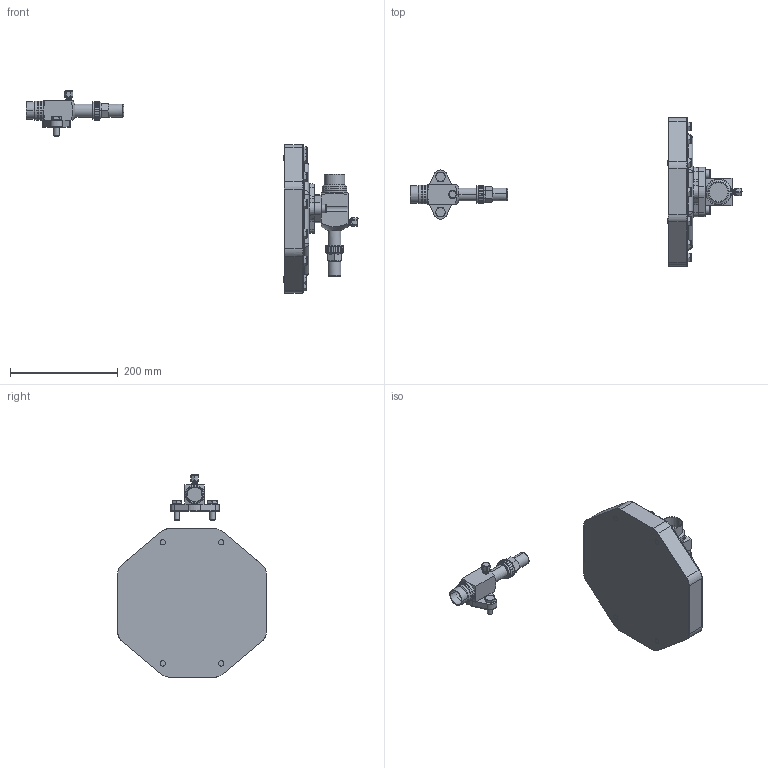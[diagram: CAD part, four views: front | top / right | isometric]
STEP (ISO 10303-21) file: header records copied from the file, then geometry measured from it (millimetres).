
FILE_DESCRIPTION(/* description */ (''),/* implementation_level */ '2;1');
FILE_NAME(/* name */ '4TE-S-4PE-S10-12-4NE-S12-14.stp',/* time_stamp */ '2023-10-24T07:50:15+02:00',/* author */ (''),/* organization */ (''),/* preprocessor_version */ 'ST-DEVELOPER v19.3',/* originating_system */ 'SIEMENS PLM Software NX2212.3001',/* authorisation */ '');
FILE_SCHEMA (('AUTOMOTIVE_DESIGN { 1 0 10303 214 3 1 1 1 }'));
Length unit declared in the file: millimetre
Products named in the file (4): SHUT-OFF-VALVE-COMPL-D28L; SHUT-OFF-VALVE-D35L-1-3-8; HOUSING-COVER-4VC-4NC-12; 4TE-S-4PE-S10-12-4NE-S12-14
Assembly tree (3 placements, depth 2):
  4TE-S-4PE-S10-12-4NE-S12-14
    HOUSING-COVER-4VC-4NC-12
    SHUT-OFF-VALVE-D35L-1-3-8
    SHUT-OFF-VALVE-COMPL-D28L
Bounding box: 614.85 x 275 x 374.63 mm (x, y, z)
Volume: 3142392.5 mm3; surface area: 248383 mm2
Topology: 3 solids, 3 shells, 841 faces, 2142 edges, 1382 vertices
Faces by surface type: plane 427, cylinder 220, cone 138, torus 32, bspline 24
Full cylindrical faces by diameter (mm): 8.985 x4, 9.732 x4, 10 x4, 11 x4, 14.63 x14, 16 x2, 27 x1, 31 x1, 32 x1, 34.5 x1
Entity records: 28257 total; most frequent: CARTESIAN_POINT 6389, ORIENTED_EDGE 4088, DIRECTION 4056, EDGE_CURVE 2044, AXIS2_PLACEMENT_3D 1517, VERTEX_POINT 1350, LINE 1022, VECTOR 1022
